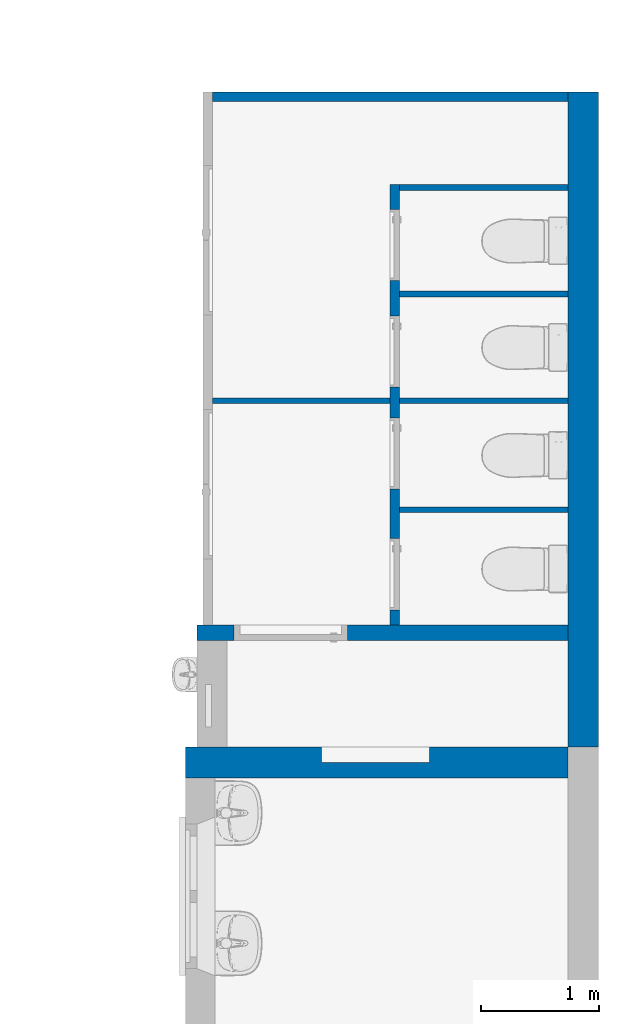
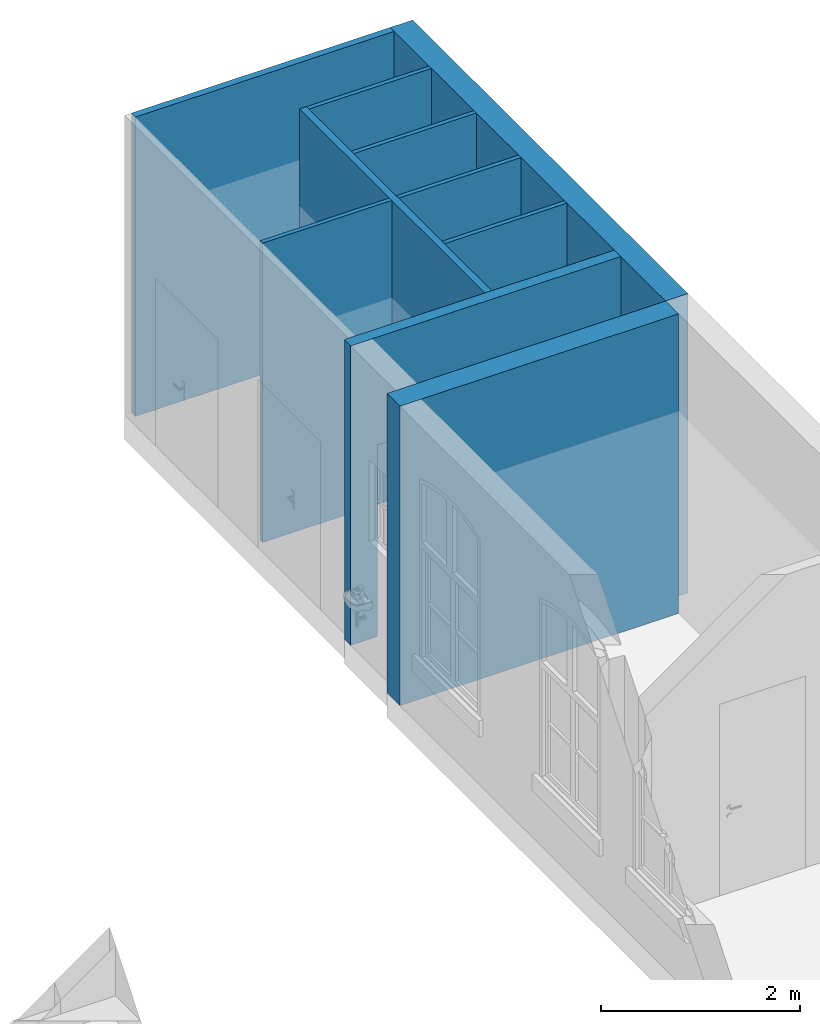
"""IFC4 building model written with IfcOpenShell, lengths in metres."""

from ifc_helpers import new_model, entity, si_unit, converted_unit, derived_unit, frame, frame_2d, origin, origin_with_axes, place, context, subcontext, project, spatial, polyline, rectangle, outline, extrude, material, layer, layer_set, layer_usage, element, save


model = new_model("IFC4")

# Units and contexts
model_context = context("Model", 3, precision=1e-05, world=origin())
body_context = subcontext(model_context, "Body", "Model", "MODEL_VIEW")
ifc_project = project(units=[si_unit("LENGTHUNIT", "METRE"), si_unit("AREAUNIT", "SQUARE_METRE"), si_unit("VOLUMEUNIT", "CUBIC_METRE"), si_unit("MASSUNIT", "GRAM", prefix="KILO"), converted_unit("PLANEANGLEUNIT", "DEGREE", entity("IfcPlaneAngleMeasure", 0.0174532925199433), si_unit("PLANEANGLEUNIT", "RADIAN"), dimensions=[0, 0, 0, 0, 0, 0, 0]), derived_unit("THERMALTRANSMITTANCEUNIT", [(si_unit("POWERUNIT", "WATT"), 1), (si_unit("THERMODYNAMICTEMPERATUREUNIT", "KELVIN"), -1), (si_unit("LENGTHUNIT", "METRE"), -2)]), derived_unit("VOLUMETRICFLOWRATEUNIT", [(si_unit("LENGTHUNIT", "METRE"), 3), (converted_unit("TIMEUNIT", "hour", entity("IfcTimeMeasure", 3600.0), si_unit("TIMEUNIT", "SECOND"), dimensions=[0, 0, 1, 0, 0, 0, 0]), -1), (si_unit("LENGTHUNIT", "METRE"), -1)])], contexts=[model_context])

# Building, storeys
building_placement = place(None, origin())
building = spatial("IfcBuilding", under=ifc_project, at=building_placement, Name="Bestandsgebäude A - Sporthalle / Wohnhaus (TB 100-499)   ANPASSEN !!!", CompositionType="ELEMENT")
storey_1_placement = place(building_placement, origin())
storey_1 = spatial("IfcBuildingStorey", under=building, at=storey_1_placement, Name="Geb. A Erdgeschoss (TB 200-249)", CompositionType="ELEMENT", Elevation=0.0)
storey_2_placement = place(storey_1_placement, origin())
storey_2 = spatial("IfcBuildingStorey", under=storey_1, at=storey_2_placement, Name="Architektur (TB 200-209)", CompositionType="PARTIAL")

# Wall
ifc_material_1 = material(Name="concrete")
ifc_layer_1 = layer(ifc_material_1, 0.08)
ifc_layer_set_1 = layer_set([ifc_layer_1])
ifc_layer_usage_1 = layer_usage(ifc_layer_set_1, "AXIS2", "POSITIVE", 0.0)
wall_1_placement = place(storey_2_placement, frame((-3.26, 21.68, 0.0), z_axis=(0.0, 0.0, 1.0), x_axis=(1.0, -2.42531920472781e-15, 0.0)))
element("IfcWall", 1, at=wall_1_placement, inside=storey_2, material=ifc_layer_usage_1, Name="reinforced - bearing", PredefinedType="USERDEFINED", context=body_context, shape_type="SweptSolid", body=[
    extrude(rectangle(XDim=3.0, YDim=0.08, at=frame_2d((1.5, 0.04), x_axis=(1.0, 0.0))), origin_with_axes(), (0.0, 0.0, 1.0), 3.67),
])

# Wall, opening
ifc_material_2 = material(Name="masonry")
ifc_layer_2 = layer(ifc_material_2, 0.26)
ifc_layer_set_2 = layer_set([ifc_layer_2])
ifc_layer_usage_2 = layer_usage(ifc_layer_set_2, "AXIS2", "POSITIVE", 0.0)
wall_2_placement = place(storey_2_placement, frame((-0.259999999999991, 16.23, 0.0), z_axis=(0.0, 0.0, 1.0), x_axis=(-1.0, 1.12630922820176e-15, 0.0)))
wall_2 = element("IfcWall", 2, at=wall_2_placement, inside=storey_2, material=ifc_layer_usage_2, Name="masonry load-bearing", PredefinedType="USERDEFINED", context=body_context, shape_type="SweptSolid", body=[
    extrude(rectangle(XDim=3.23000000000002, YDim=0.26, at=frame_2d((1.61500000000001, 0.13), x_axis=(1.0, 0.0))), origin_with_axes(), (0.0, 0.0, 1.0), 3.67),
])
opening_1_placement = place(wall_2_placement, frame((1.16999999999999, 0.0, 0.0), z_axis=(-1.7490282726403e-15, 1.0, 0.0), x_axis=(0.0, 0.0, 1.0)))
element("IfcOpeningElement", 3, at=opening_1_placement, cuts=wall_2, Name="Wall Niche", ObjectType="Opening", context=body_context, shape_type="SweptSolid", body=[
    extrude(outline(polyline([(2.18, 0.91), (2.18, 0.0), (0.0, 0.0), (0.0, 0.91), (2.18, 0.91)])), origin_with_axes(), (0.0, 0.0, 1.0), 0.129999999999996),
])

ifc_material_3 = material(Name="masonry")
ifc_layer_3 = layer(ifc_material_3, 0.13)
ifc_layer_set_3 = layer_set([ifc_layer_3])
ifc_layer_usage_3 = layer_usage(ifc_layer_set_3, "AXIS2", "POSITIVE", 0.0)
wall_3_placement = place(storey_2_placement, frame((-0.259999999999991, 17.26, 0.0), z_axis=(0.0, 0.0, 1.0), x_axis=(-1.0, 0.0, 0.0)))
wall_3 = element("IfcWall", 4, at=wall_3_placement, inside=storey_2, material=ifc_layer_usage_3, Name="masonry load-bearing", PredefinedType="USERDEFINED", context=body_context, shape_type="SweptSolid", body=[
    extrude(rectangle(XDim=3.13000000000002, YDim=0.13, at=frame_2d((1.56500000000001, 0.065), x_axis=(1.0, 0.0))), origin_with_axes(), (0.0, 0.0, 1.0), 3.67),
])
opening_2_placement = place(wall_3_placement, frame((1.86000000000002, 0.0, 0.0), z_axis=(0.0, 1.0, 0.0), x_axis=(0.0, 0.0, 1.0)))
element("IfcOpeningElement", 5, at=opening_2_placement, cuts=wall_3, Name="Door opening", PredefinedType="OPENING", context=body_context, shape_type="SweptSolid", body=[
    extrude(outline(polyline([(2.35, 0.959999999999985), (2.35, 0.0), (0.0, 0.0), (0.0, 0.959999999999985), (2.35, 0.959999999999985)])), origin_with_axes(), (0.0, 0.0, 1.0), 0.13),
])

# Wall
ifc_material_4 = material(Name="masonry")
ifc_layer_4 = layer(ifc_material_4, 0.05)
ifc_layer_set_4 = layer_set([ifc_layer_4])
ifc_layer_usage_4 = layer_usage(ifc_layer_set_4, "AXIS2", "POSITIVE", 0.0)
wall_4_placement = place(storey_2_placement, frame((-0.259999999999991, 20.98, 0.0), z_axis=(0.0, 0.0, 1.0), x_axis=(-1.0, 0.0, 0.0)))
element("IfcWall", 6, at=wall_4_placement, inside=storey_2, material=ifc_layer_usage_4, Name="masonry load-bearing", PredefinedType="USERDEFINED", context=body_context, shape_type="SweptSolid", body=[
    extrude(rectangle(XDim=1.42, YDim=0.05, at=frame_2d((0.71, 0.025), x_axis=(1.0, 0.0))), origin_with_axes(), (0.0, 0.0, 1.0), 3.67),
])

# Wall, openings
ifc_material_5 = material(Name="masonry")
ifc_layer_5 = layer(ifc_material_5, 0.08)
ifc_layer_set_5 = layer_set([ifc_layer_5])
ifc_layer_usage_5 = layer_usage(ifc_layer_set_5, "AXIS2", "POSITIVE", 0.0)
wall_5_placement = place(storey_2_placement, frame((-1.75999999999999, 20.98, 0.0), z_axis=(0.0, 0.0, 1.0), x_axis=(0.0, -1.0, 0.0)))
wall_5 = element("IfcWall", 7, at=wall_5_placement, inside=storey_2, material=ifc_layer_usage_5, Name="masonry load-bearing", PredefinedType="USERDEFINED", context=body_context, shape_type="SweptSolid", body=[
    extrude(rectangle(XDim=3.72000000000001, YDim=0.08, at=frame_2d((1.86, 0.04), x_axis=(1.0, 0.0))), origin_with_axes(), (0.0, 0.0, 1.0), 3.67),
])
opening_3_placement = place(wall_5_placement, frame((0.210000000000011, 0.0, 0.0), z_axis=(0.0, 1.0, 0.0), x_axis=(0.0, 0.0, 1.0)))
element("IfcOpeningElement", 8, at=opening_3_placement, cuts=wall_5, Name="Door opening", PredefinedType="OPENING", context=body_context, shape_type="SweptSolid", body=[
    extrude(outline(polyline([(2.2, 0.6), (2.2, 0.0), (0.0, 0.0), (0.0, 0.6), (2.2, 0.6)])), origin_with_axes(), (0.0, 0.0, 1.0), 0.08),
])
opening_4_placement = place(wall_5_placement, frame((1.11000000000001, 0.0, 0.0), z_axis=(0.0, 1.0, 0.0), x_axis=(0.0, 0.0, 1.0)))
element("IfcOpeningElement", 9, at=opening_4_placement, cuts=wall_5, Name="Door opening", PredefinedType="OPENING", context=body_context, shape_type="SweptSolid", body=[
    extrude(outline(polyline([(2.2, 0.6), (2.2, 0.0), (0.0, 0.0), (0.0, 0.6), (2.2, 0.6)])), origin_with_axes(), (0.0, 0.0, 1.0), 0.08),
])
opening_5_placement = place(wall_5_placement, frame((2.99000000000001, 0.0, 0.0), z_axis=(0.0, 1.0, 0.0), x_axis=(0.0, 0.0, 1.0)))
element("IfcOpeningElement", 10, at=opening_5_placement, cuts=wall_5, Name="Door opening", PredefinedType="OPENING", context=body_context, shape_type="SweptSolid", body=[
    extrude(outline(polyline([(2.2, 0.6), (2.2, 0.0), (0.0, 0.0), (0.0, 0.6), (2.2, 0.6)])), origin_with_axes(), (0.0, 0.0, 1.0), 0.08),
])
opening_6_placement = place(wall_5_placement, frame((1.97000000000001, 0.0, 0.0), z_axis=(0.0, 1.0, 0.0), x_axis=(0.0, 0.0, 1.0)))
element("IfcOpeningElement", 11, at=opening_6_placement, cuts=wall_5, Name="Door opening", PredefinedType="OPENING", context=body_context, shape_type="SweptSolid", body=[
    extrude(outline(polyline([(2.2, 0.6), (2.2, 0.0), (0.0, 0.0), (0.0, 0.6), (2.2, 0.6)])), origin_with_axes(), (0.0, 0.0, 1.0), 0.08),
])

# Walls
ifc_material_6 = material(Name="masonry")
ifc_layer_6 = layer(ifc_material_6, 0.05)
ifc_layer_set_6 = layer_set([ifc_layer_6])
ifc_layer_usage_6 = layer_usage(ifc_layer_set_6, "AXIS2", "POSITIVE", 0.0)
wall_6_placement = place(storey_2_placement, frame((-0.259999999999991, 20.08, 0.0), z_axis=(0.0, 0.0, 1.0), x_axis=(-1.0, 0.0, 0.0)))
element("IfcWall", 12, at=wall_6_placement, inside=storey_2, material=ifc_layer_usage_6, Name="masonry load-bearing", PredefinedType="USERDEFINED", context=body_context, shape_type="SweptSolid", body=[
    extrude(rectangle(XDim=1.41999999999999, YDim=0.05, at=frame_2d((0.709999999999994, 0.025), x_axis=(1.0, 0.0))), origin_with_axes(), (0.0, 0.0, 1.0), 3.67),
])
ifc_material_7 = material(Name="masonry")
ifc_layer_7 = layer(ifc_material_7, 0.05)
ifc_layer_set_7 = layer_set([ifc_layer_7])
ifc_layer_usage_7 = layer_usage(ifc_layer_set_7, "AXIS2", "POSITIVE", 0.0)
wall_7_placement = place(storey_2_placement, frame((-0.259999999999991, 19.18, 0.0), z_axis=(0.0, 0.0, 1.0), x_axis=(-1.0, 2.56195690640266e-15, 0.0)))
element("IfcWall", 13, at=wall_7_placement, inside=storey_2, material=ifc_layer_usage_7, Name="masonry load-bearing", PredefinedType="USERDEFINED", context=body_context, shape_type="SweptSolid", body=[
    extrude(rectangle(XDim=1.41999999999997, YDim=0.05, at=frame_2d((0.709999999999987, 0.025), x_axis=(1.0, 0.0))), origin_with_axes(), (0.0, 0.0, 1.0), 3.67),
])
ifc_material_8 = material(Name="masonry")
ifc_layer_8 = layer(ifc_material_8, 0.05)
ifc_layer_set_8 = layer_set([ifc_layer_8])
ifc_layer_usage_8 = layer_usage(ifc_layer_set_8, "AXIS2", "POSITIVE", 0.0)
wall_8_placement = place(storey_2_placement, frame((-0.259999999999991, 18.26, 0.0), z_axis=(0.0, 0.0, 1.0), x_axis=(-1.0, 2.56195690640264e-15, 0.0)))
element("IfcWall", 14, at=wall_8_placement, inside=storey_2, material=ifc_layer_usage_8, Name="masonry load-bearing", PredefinedType="USERDEFINED", context=body_context, shape_type="SweptSolid", body=[
    extrude(rectangle(XDim=1.41999999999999, YDim=0.05, at=frame_2d((0.709999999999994, 0.025), x_axis=(1.0, 0.0))), origin_with_axes(), (0.0, 0.0, 1.0), 3.67),
])
ifc_material_9 = material(Name="masonry")
ifc_layer_9 = layer(ifc_material_9, 0.05)
ifc_layer_set_9 = layer_set([ifc_layer_9])
ifc_layer_usage_9 = layer_usage(ifc_layer_set_9, "AXIS2", "POSITIVE", 0.0)
wall_9_placement = place(storey_2_placement, frame((-1.76000000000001, 19.18, 0.0), z_axis=(0.0, 0.0, 1.0), x_axis=(-1.0, 4.85063840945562e-15, 0.0)))
element("IfcWall", 15, at=wall_9_placement, inside=storey_2, material=ifc_layer_usage_9, Name="masonry load-bearing", PredefinedType="USERDEFINED", context=body_context, shape_type="SweptSolid", body=[
    extrude(rectangle(XDim=1.5, YDim=0.05, at=frame_2d((0.75, 0.025), x_axis=(1.0, 0.0))), origin_with_axes(), (0.0, 0.0, 1.0), 3.67),
])
ifc_material_10 = material(Name="concrete")
ifc_layer_10 = layer(ifc_material_10, 0.26)
ifc_layer_set_10 = layer_set([ifc_layer_10])
ifc_layer_usage_10 = layer_usage(ifc_layer_set_10, "AXIS2", "POSITIVE", 0.0)
wall_10_placement = place(storey_2_placement, frame((0.0, 16.23, 0.0), z_axis=(0.0, 0.0, 1.0), x_axis=(2.4492935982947e-16, 1.0, 0.0)))
element("IfcWall", 16, at=wall_10_placement, inside=storey_2, material=ifc_layer_usage_10, Name="reinforced - bearing", PredefinedType="USERDEFINED", context=body_context, shape_type="SweptSolid", body=[
    extrude(rectangle(XDim=5.53, YDim=0.26, at=frame_2d((2.765, 0.13), x_axis=(1.0, 0.0))), origin_with_axes(), (0.0, 0.0, 1.0), 3.67),
])

save(model, "model.ifc")
